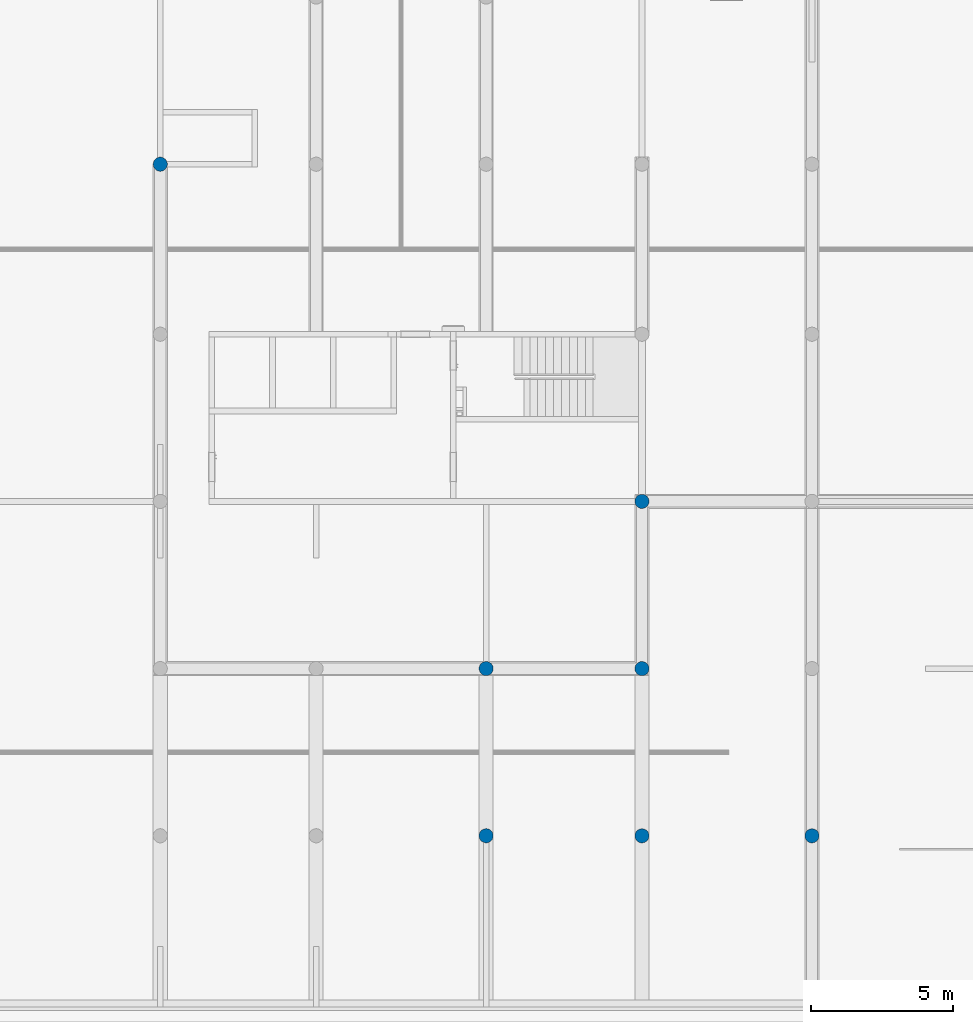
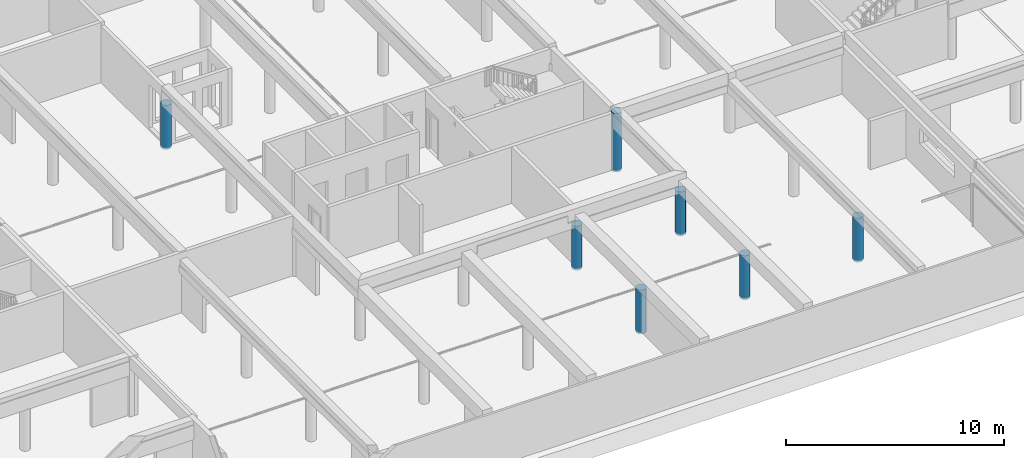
# One storey, part 3 of 25: 7 columns.
"""IFC2X3 building model written with IfcOpenShell, lengths in millimetres."""

from ifc_helpers import new_model, entity, si_unit, converted_unit, derived_unit, money_unit, direction, frame, origin_with_axes, place, context, subcontext, project, spatial, faceted_brep, material, type_object, element, save


model = new_model("IFC2X3")

# Units and contexts
model_context = context("Model", 3, precision=0.01, world=origin_with_axes(), true_north=direction((0.34421633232, 0.938890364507)))
body_context = subcontext(model_context, "Body", "Model", "MODEL_VIEW")
ifc_project = project(units=[si_unit("LENGTHUNIT", "METRE", prefix="MILLI"), si_unit("AREAUNIT", "SQUARE_METRE"), si_unit("VOLUMEUNIT", "CUBIC_METRE"), converted_unit("PLANEANGLEUNIT", "DEGREE", entity("IfcPlaneAngleMeasure", 0.0174532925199), si_unit("PLANEANGLEUNIT", "RADIAN"), dimensions=[0, 0, 0, 0, 0, 0, 0]), si_unit("SOLIDANGLEUNIT", "STERADIAN"), money_unit("USD"), converted_unit("TIMEUNIT", "Year", entity("IfcTimeMeasure", 31556926.0), si_unit("TIMEUNIT", "SECOND"), dimensions=[0, 0, 1, 0, 0, 0, 0]), si_unit("MASSUNIT", "GRAM", prefix="KILO"), si_unit("THERMODYNAMICTEMPERATUREUNIT", "DEGREE_CELSIUS"), si_unit("LUMINOUSINTENSITYUNIT", "LUMEN"), si_unit("ENERGYUNIT", "JOULE", prefix="MEGA"), derived_unit("THERMALCONDUCTANCEUNIT", [(si_unit("POWERUNIT", "WATT"), 1), (si_unit("LENGTHUNIT", "METRE"), -1), (si_unit("THERMODYNAMICTEMPERATUREUNIT", "KELVIN"), -1)]), derived_unit("SPECIFICHEATCAPACITYUNIT", [(si_unit("ENERGYUNIT", "JOULE"), 1), (si_unit("MASSUNIT", "GRAM", prefix="KILO"), -1), (si_unit("THERMODYNAMICTEMPERATUREUNIT", "KELVIN"), -1)]), derived_unit("MASSDENSITYUNIT", [(si_unit("MASSUNIT", "GRAM", prefix="KILO"), 1), (si_unit("VOLUMEUNIT", "CUBIC_METRE"), -1)])], contexts=[model_context])

# Site, building, storey
site_placement = place(None, origin_with_axes())
site = spatial("IfcSite", under=ifc_project, at=site_placement, Name="USTRONIE MORSKIE", CompositionType="ELEMENT")
building_placement = place(site_placement, origin_with_axes())
building = spatial("IfcBuilding", under=site, at=building_placement, Name="Budynek", CompositionType="ELEMENT")
storey_placement = place(building_placement, frame((0.0, 0.0, -3600.0), z_axis=(0.0, 0.0, 1.0), x_axis=(1.0, 0.0, 0.0)))
storey = spatial("IfcBuildingStorey", under=building, at=storey_placement, Name="GARAZ", CompositionType="ELEMENT", Elevation=-3600.0)

# Columns
ifc_material = material(Name="Beton konstrukcyjny 01")
column_type = type_object("IfcColumnType", Name="Beton konstrukcyjny 01 D500", PredefinedType="NOTDEFINED")
column_1_placement = place(storey_placement, frame((390817.920919, 721001.199036, -100.0), z_axis=(0.0, 0.0, 1.0), x_axis=(1.0, 0.0, 0.0)))
element("IfcColumn", 1, at=column_1_placement, inside=storey, type_object=column_type, material=ifc_material, Name="S1", context=body_context, shape_type="Brep", body=[
    faceted_brep([(-250.015, 0.0, 2470.00030619), (-250.015, 0.0, 0.0), (-246.216710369, -43.4146491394, 0.0), (-246.216710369, -43.4146491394, 2470.00030619), (-246.216710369, 43.4146491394, 2470.00030619), (-246.216710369, 43.4146491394, 0.0), (-234.937250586, 85.5101661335, 0.0), (-216.519341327, 125.0075, 0.0), (-191.522601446, 160.706544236, 0.0), (-160.706544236, 191.522601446, 0.0), (-125.0075, 216.519341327, 0.0), (-85.5101661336, 234.937250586, 0.0), (-43.4146491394, 246.216710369, 0.0), (0.0, 250.015, 0.0), (43.4146491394, 246.216710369, 0.0), (85.5101661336, 234.937250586, 0.0), (125.0075, 216.519341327, 0.0), (160.706544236, 191.522601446, 0.0), (191.522601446, 160.706544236, 0.0), (216.519341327, 125.0075, 0.0), (234.937250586, 85.5101661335, 0.0), (246.216710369, 43.4146491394, 0.0), (250.015, 0.0, 0.0), (246.216710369, -43.4146491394, 0.0), (234.937250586, -85.5101661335, 0.0), (216.519341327, -125.0075, 0.0), (191.522601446, -160.706544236, 0.0), (160.706544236, -191.522601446, 0.0), (125.0075, -216.519341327, 0.0), (85.5101661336, -234.937250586, 0.0), (43.4146491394, -246.216710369, 0.0), (0.0, -250.015, 0.0), (-43.4146491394, -246.216710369, 0.0), (-85.5101661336, -234.937250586, 0.0), (-125.0075, -216.519341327, 0.0), (-160.706544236, -191.522601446, 0.0), (-191.522601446, -160.706544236, 0.0), (-216.519341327, -125.0075, 0.0), (-234.937250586, -85.5101661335, 0.0), (-234.937250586, -85.5101661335, 2470.00030619), (-216.519341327, -125.0075, 2470.00030619), (-191.522601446, -160.706544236, 2470.00030619), (-160.706544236, -191.522601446, 2470.00030619), (-125.0075, -216.519341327, 2470.00030619), (-85.5101661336, -234.937250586, 2470.00030619), (-43.4146491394, -246.216710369, 2470.00030619), (0.0, -250.015, 2470.00030619), (43.4146491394, -246.216710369, 2470.00030619), (85.5101661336, -234.937250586, 2470.00030619), (125.0075, -216.519341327, 2470.00030619), (160.706544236, -191.522601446, 2470.00030619), (191.522601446, -160.706544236, 2470.00030619), (216.519341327, -125.0075, 2470.00030619), (234.937250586, -85.5101661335, 2470.00030619), (246.216710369, -43.4146491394, 2470.00030619), (250.015, 0.0, 2470.00030619), (246.216710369, 43.4146491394, 2470.00030619), (234.937250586, 85.5101661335, 2470.00030619), (216.519341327, 125.0075, 2470.00030619), (191.522601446, 160.706544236, 2470.00030619), (160.706544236, 191.522601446, 2470.00030619), (125.0075, 216.519341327, 2470.00030619), (85.5101661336, 234.937250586, 2470.00030619), (43.4146491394, 246.216710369, 2470.00030619), (0.0, 250.015, 2470.00030619), (-43.4146491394, 246.216710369, 2470.00030619), (-85.5101661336, 234.937250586, 2470.00030619), (-125.0075, 216.519341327, 2470.00030619), (-160.706544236, 191.522601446, 2470.00030619), (-191.522601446, 160.706544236, 2470.00030619), (-216.519341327, 125.0075, 2470.00030619), (-234.937250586, 85.5101661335, 2470.00030619)], [[[0, 1, 2, 3]], [[4, 5, 1, 0]], [[2, 1, 5, 6, 7, 8, 9, 10, 11, 12, 13, 14, 15, 16, 17, 18, 19, 20, 21, 22, 23, 24, 25, 26, 27, 28, 29, 30, 31, 32, 33, 34, 35, 36, 37, 38]], [[3, 2, 38, 39]], [[4, 0, 3, 39, 40, 41, 42, 43, 44, 45, 46, 47, 48, 49, 50, 51, 52, 53, 54, 55, 56, 57, 58, 59, 60, 61, 62, 63, 64, 65, 66, 67, 68, 69, 70, 71]], [[71, 6, 5, 4]], [[70, 7, 6, 71]], [[69, 8, 7, 70]], [[68, 9, 8, 69]], [[67, 10, 9, 68]], [[66, 11, 10, 67]], [[65, 12, 11, 66]], [[64, 13, 12, 65]], [[63, 14, 13, 64]], [[62, 15, 14, 63]], [[61, 16, 15, 62]], [[60, 17, 16, 61]], [[59, 18, 17, 60]], [[58, 19, 18, 59]], [[57, 20, 19, 58]], [[56, 21, 20, 57]], [[55, 22, 21, 56]], [[54, 23, 22, 55]], [[53, 24, 23, 54]], [[52, 25, 24, 53]], [[51, 26, 25, 52]], [[50, 27, 26, 51]], [[49, 28, 27, 50]], [[48, 29, 28, 49]], [[47, 30, 29, 48]], [[46, 31, 30, 47]], [[45, 32, 31, 46]], [[44, 33, 32, 45]], [[43, 34, 33, 44]], [[42, 35, 34, 43]], [[41, 36, 35, 42]], [[40, 37, 36, 41]], [[39, 38, 37, 40]]]),
])
column_2_placement = place(storey_placement, frame((396317.920919, 715101.199036, -100.0), z_axis=(0.0, 0.0, 1.0), x_axis=(0.0, 1.0, 0.0)))
element("IfcColumn", 2, at=column_2_placement, inside=storey, type_object=column_type, material=ifc_material, Name="S1", context=body_context, shape_type="Brep", body=[
    faceted_brep([(-250.0, 0.0, 2470.00030619), (-250.0, 0.0, 0.0), (-246.201938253, -43.4120444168, 0.0), (-246.201938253, -43.4120444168, 2470.00030619), (-246.201938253, 43.4120444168, 2470.00030619), (-246.201938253, 43.4120444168, 0.0), (-234.923155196, 85.5050358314, 0.0), (-216.506350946, 125.0, 0.0), (-191.51111078, 160.696902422, 0.0), (-160.696902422, 191.51111078, 0.0), (-125.0, 216.506350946, 0.0), (-85.5050358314, 234.923155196, 0.0), (-43.4120444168, 246.201938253, 0.0), (0.0, 250.0, 0.0), (43.4120444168, 246.201938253, 0.0), (85.5050358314, 234.923155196, 0.0), (125.0, 216.506350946, 0.0), (160.696902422, 191.51111078, 0.0), (191.51111078, 160.696902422, 0.0), (216.506350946, 125.0, 0.0), (234.923155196, 85.5050358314, 0.0), (246.201938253, 43.4120444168, 0.0), (250.0, 0.0, 0.0), (246.201938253, -43.4120444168, 0.0), (234.923155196, -85.5050358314, 0.0), (216.506350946, -125.0, 0.0), (191.51111078, -160.696902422, 0.0), (160.696902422, -191.51111078, 0.0), (125.0, -216.506350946, 0.0), (85.5050358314, -234.923155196, 0.0), (43.4120444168, -246.201938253, 0.0), (0.0, -250.0, 0.0), (-43.4120444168, -246.201938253, 0.0), (-85.5050358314, -234.923155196, 0.0), (-125.0, -216.506350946, 0.0), (-160.696902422, -191.51111078, 0.0), (-191.51111078, -160.696902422, 0.0), (-216.506350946, -125.0, 0.0), (-234.923155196, -85.5050358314, 0.0), (-234.923155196, -85.5050358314, 2470.00030619), (-216.506350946, -125.0, 2470.00030619), (-191.51111078, -160.696902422, 2470.00030619), (-160.696902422, -191.51111078, 2470.00030619), (-125.0, -216.506350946, 2470.00030619), (-85.5050358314, -234.923155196, 2470.00030619), (-43.4120444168, -246.201938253, 2470.00030619), (0.0, -250.0, 2470.00030619), (43.4120444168, -246.201938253, 2470.00030619), (85.5050358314, -234.923155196, 2470.00030619), (125.0, -216.506350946, 2470.00030619), (160.696902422, -191.51111078, 2470.00030619), (191.51111078, -160.696902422, 2470.00030619), (216.506350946, -125.0, 2470.00030619), (234.923155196, -85.5050358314, 2470.00030619), (246.201938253, -43.4120444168, 2470.00030619), (250.0, 0.0, 2470.00030619), (246.201938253, 43.4120444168, 2470.00030619), (234.923155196, 85.5050358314, 2470.00030619), (216.506350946, 125.0, 2470.00030619), (191.51111078, 160.696902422, 2470.00030619), (160.696902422, 191.51111078, 2470.00030619), (125.0, 216.506350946, 2470.00030619), (85.5050358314, 234.923155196, 2470.00030619), (43.4120444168, 246.201938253, 2470.00030619), (0.0, 250.0, 2470.00030619), (-43.4120444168, 246.201938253, 2470.00030619), (-85.5050358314, 234.923155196, 2470.00030619), (-125.0, 216.506350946, 2470.00030619), (-160.696902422, 191.51111078, 2470.00030619), (-191.51111078, 160.696902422, 2470.00030619), (-216.506350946, 125.0, 2470.00030619), (-234.923155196, 85.5050358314, 2470.00030619)], [[[0, 1, 2, 3]], [[4, 5, 1, 0]], [[2, 1, 5, 6, 7, 8, 9, 10, 11, 12, 13, 14, 15, 16, 17, 18, 19, 20, 21, 22, 23, 24, 25, 26, 27, 28, 29, 30, 31, 32, 33, 34, 35, 36, 37, 38]], [[3, 2, 38, 39]], [[4, 0, 3, 39, 40, 41, 42, 43, 44, 45, 46, 47, 48, 49, 50, 51, 52, 53, 54, 55, 56, 57, 58, 59, 60, 61, 62, 63, 64, 65, 66, 67, 68, 69, 70, 71]], [[71, 6, 5, 4]], [[70, 7, 6, 71]], [[69, 8, 7, 70]], [[68, 9, 8, 69]], [[67, 10, 9, 68]], [[66, 11, 10, 67]], [[65, 12, 11, 66]], [[64, 13, 12, 65]], [[63, 14, 13, 64]], [[62, 15, 14, 63]], [[61, 16, 15, 62]], [[60, 17, 16, 61]], [[59, 18, 17, 60]], [[58, 19, 18, 59]], [[57, 20, 19, 58]], [[56, 21, 20, 57]], [[55, 22, 21, 56]], [[54, 23, 22, 55]], [[53, 24, 23, 54]], [[52, 25, 24, 53]], [[51, 26, 25, 52]], [[50, 27, 26, 51]], [[49, 28, 27, 50]], [[48, 29, 28, 49]], [[47, 30, 29, 48]], [[46, 31, 30, 47]], [[45, 32, 31, 46]], [[44, 33, 32, 45]], [[43, 34, 33, 44]], [[42, 35, 34, 43]], [[41, 36, 35, 42]], [[40, 37, 36, 41]], [[39, 38, 37, 40]]]),
])
column_3_placement = place(storey_placement, frame((396317.920919, 721001.199036, -100.0), z_axis=(0.0, 0.0, 1.0), x_axis=(1.0, 0.0, 0.0)))
element("IfcColumn", 3, at=column_3_placement, inside=storey, type_object=column_type, material=ifc_material, Name="S1", context=body_context, shape_type="Brep", body=[
    faceted_brep([(-250.015, 0.0, 2470.00030619), (-250.015, 0.0, 0.0), (-246.216710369, -43.4146491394, 0.0), (-246.216710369, -43.4146491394, 2470.00030619), (-246.216710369, 43.4146491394, 2470.00030619), (-246.216710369, 43.4146491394, 0.0), (-234.937250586, 85.5101661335, 0.0), (-216.519341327, 125.0075, 0.0), (-191.522601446, 160.706544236, 0.0), (-160.706544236, 191.522601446, 0.0), (-125.0075, 216.519341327, 0.0), (-85.5101661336, 234.937250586, 0.0), (-43.4146491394, 246.216710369, 0.0), (0.0, 250.015, 0.0), (43.4146491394, 246.216710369, 0.0), (85.5101661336, 234.937250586, 0.0), (125.0075, 216.519341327, 0.0), (160.706544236, 191.522601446, 0.0), (191.522601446, 160.706544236, 0.0), (216.519341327, 125.0075, 0.0), (234.937250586, 85.5101661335, 0.0), (246.216710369, 43.4146491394, 0.0), (250.015, 0.0, 0.0), (246.216710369, -43.4146491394, 0.0), (234.937250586, -85.5101661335, 0.0), (216.519341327, -125.0075, 0.0), (191.522601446, -160.706544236, 0.0), (160.706544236, -191.522601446, 0.0), (125.0075, -216.519341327, 0.0), (85.5101661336, -234.937250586, 0.0), (43.4146491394, -246.216710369, 0.0), (0.0, -250.015, 0.0), (-43.4146491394, -246.216710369, 0.0), (-85.5101661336, -234.937250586, 0.0), (-125.0075, -216.519341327, 0.0), (-160.706544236, -191.522601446, 0.0), (-191.522601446, -160.706544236, 0.0), (-216.519341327, -125.0075, 0.0), (-234.937250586, -85.5101661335, 0.0), (-234.937250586, -85.5101661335, 2470.00030619), (-216.519341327, -125.0075, 2470.00030619), (-191.522601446, -160.706544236, 2470.00030619), (-160.706544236, -191.522601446, 2470.00030619), (-125.0075, -216.519341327, 2470.00030619), (-85.5101661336, -234.937250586, 2470.00030619), (-43.4146491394, -246.216710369, 2470.00030619), (0.0, -250.015, 2470.00030619), (43.4146491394, -246.216710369, 2470.00030619), (85.5101661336, -234.937250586, 2470.00030619), (125.0075, -216.519341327, 2470.00030619), (160.706544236, -191.522601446, 2470.00030619), (191.522601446, -160.706544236, 2470.00030619), (216.519341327, -125.0075, 2470.00030619), (234.937250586, -85.5101661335, 2470.00030619), (246.216710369, -43.4146491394, 2470.00030619), (250.015, 0.0, 2470.00030619), (246.216710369, 43.4146491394, 2470.00030619), (234.937250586, 85.5101661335, 2470.00030619), (216.519341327, 125.0075, 2470.00030619), (191.522601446, 160.706544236, 2470.00030619), (160.706544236, 191.522601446, 2470.00030619), (125.0075, 216.519341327, 2470.00030619), (85.5101661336, 234.937250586, 2470.00030619), (43.4146491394, 246.216710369, 2470.00030619), (0.0, 250.015, 2470.00030619), (-43.4146491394, 246.216710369, 2470.00030619), (-85.5101661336, 234.937250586, 2470.00030619), (-125.0075, 216.519341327, 2470.00030619), (-160.706544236, 191.522601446, 2470.00030619), (-191.522601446, 160.706544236, 2470.00030619), (-216.519341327, 125.0075, 2470.00030619), (-234.937250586, 85.5101661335, 2470.00030619)], [[[0, 1, 2, 3]], [[4, 5, 1, 0]], [[2, 1, 5, 6, 7, 8, 9, 10, 11, 12, 13, 14, 15, 16, 17, 18, 19, 20, 21, 22, 23, 24, 25, 26, 27, 28, 29, 30, 31, 32, 33, 34, 35, 36, 37, 38]], [[3, 2, 38, 39]], [[4, 0, 3, 39, 40, 41, 42, 43, 44, 45, 46, 47, 48, 49, 50, 51, 52, 53, 54, 55, 56, 57, 58, 59, 60, 61, 62, 63, 64, 65, 66, 67, 68, 69, 70, 71]], [[71, 6, 5, 4]], [[70, 7, 6, 71]], [[69, 8, 7, 70]], [[68, 9, 8, 69]], [[67, 10, 9, 68]], [[66, 11, 10, 67]], [[65, 12, 11, 66]], [[64, 13, 12, 65]], [[63, 14, 13, 64]], [[62, 15, 14, 63]], [[61, 16, 15, 62]], [[60, 17, 16, 61]], [[59, 18, 17, 60]], [[58, 19, 18, 59]], [[57, 20, 19, 58]], [[56, 21, 20, 57]], [[55, 22, 21, 56]], [[54, 23, 22, 55]], [[53, 24, 23, 54]], [[52, 25, 24, 53]], [[51, 26, 25, 52]], [[50, 27, 26, 51]], [[49, 28, 27, 50]], [[48, 29, 28, 49]], [[47, 30, 29, 48]], [[46, 31, 30, 47]], [[45, 32, 31, 46]], [[44, 33, 32, 45]], [[43, 34, 33, 44]], [[42, 35, 34, 43]], [[41, 36, 35, 42]], [[40, 37, 36, 41]], [[39, 38, 37, 40]]]),
])
column_4_placement = place(storey_placement, frame((402317.920919, 715101.199036, -100.0), z_axis=(0.0, 0.0, 1.0), x_axis=(1.0, 0.0, 0.0)))
element("IfcColumn", 4, at=column_4_placement, inside=storey, type_object=column_type, material=ifc_material, Name="S1", context=body_context, shape_type="Brep", body=[
    faceted_brep([(-250.0, 0.0, 2470.00030619), (-250.0, 0.0, 0.0), (-246.201938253, -43.4120444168, 0.0), (-246.201938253, -43.4120444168, 2470.00030619), (-246.201938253, 43.4120444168, 2470.00030619), (-246.201938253, 43.4120444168, 0.0), (-234.923155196, 85.5050358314, 0.0), (-216.506350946, 125.0, 0.0), (-191.51111078, 160.696902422, 0.0), (-160.696902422, 191.51111078, 0.0), (-125.0, 216.506350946, 0.0), (-85.5050358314, 234.923155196, 0.0), (-43.4120444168, 246.201938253, 0.0), (0.0, 250.0, 0.0), (43.4120444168, 246.201938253, 0.0), (85.5050358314, 234.923155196, 0.0), (125.0, 216.506350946, 0.0), (160.696902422, 191.51111078, 0.0), (191.51111078, 160.696902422, 0.0), (216.506350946, 125.0, 0.0), (234.923155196, 85.5050358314, 0.0), (246.201938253, 43.4120444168, 0.0), (250.0, 0.0, 0.0), (246.201938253, -43.4120444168, 0.0), (234.923155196, -85.5050358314, 0.0), (216.506350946, -125.0, 0.0), (191.51111078, -160.696902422, 0.0), (160.696902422, -191.51111078, 0.0), (125.0, -216.506350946, 0.0), (85.5050358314, -234.923155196, 0.0), (43.4120444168, -246.201938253, 0.0), (0.0, -250.0, 0.0), (-43.4120444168, -246.201938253, 0.0), (-85.5050358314, -234.923155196, 0.0), (-125.0, -216.506350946, 0.0), (-160.696902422, -191.51111078, 0.0), (-191.51111078, -160.696902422, 0.0), (-216.506350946, -125.0, 0.0), (-234.923155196, -85.5050358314, 0.0), (-234.923155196, -85.5050358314, 2470.00030619), (-216.506350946, -125.0, 2470.00030619), (-191.51111078, -160.696902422, 2470.00030619), (-160.696902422, -191.51111078, 2470.00030619), (-125.0, -216.506350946, 2470.00030619), (-85.5050358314, -234.923155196, 2470.00030619), (-43.4120444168, -246.201938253, 2470.00030619), (0.0, -250.0, 2470.00030619), (43.4120444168, -246.201938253, 2470.00030619), (85.5050358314, -234.923155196, 2470.00030619), (125.0, -216.506350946, 2470.00030619), (160.696902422, -191.51111078, 2470.00030619), (191.51111078, -160.696902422, 2470.00030619), (216.506350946, -125.0, 2470.00030619), (234.923155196, -85.5050358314, 2470.00030619), (246.201938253, -43.4120444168, 2470.00030619), (250.0, 0.0, 2470.00030619), (246.201938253, 43.4120444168, 2470.00030619), (234.923155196, 85.5050358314, 2470.00030619), (216.506350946, 125.0, 2470.00030619), (191.51111078, 160.696902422, 2470.00030619), (160.696902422, 191.51111078, 2470.00030619), (125.0, 216.506350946, 2470.00030619), (85.5050358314, 234.923155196, 2470.00030619), (43.4120444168, 246.201938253, 2470.00030619), (0.0, 250.0, 2470.00030619), (-43.4120444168, 246.201938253, 2470.00030619), (-85.5050358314, 234.923155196, 2470.00030619), (-125.0, 216.506350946, 2470.00030619), (-160.696902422, 191.51111078, 2470.00030619), (-191.51111078, 160.696902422, 2470.00030619), (-216.506350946, 125.0, 2470.00030619), (-234.923155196, 85.5050358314, 2470.00030619)], [[[0, 1, 2, 3]], [[4, 5, 1, 0]], [[2, 1, 5, 6, 7, 8, 9, 10, 11, 12, 13, 14, 15, 16, 17, 18, 19, 20, 21, 22, 23, 24, 25, 26, 27, 28, 29, 30, 31, 32, 33, 34, 35, 36, 37, 38]], [[3, 2, 38, 39]], [[4, 0, 3, 39, 40, 41, 42, 43, 44, 45, 46, 47, 48, 49, 50, 51, 52, 53, 54, 55, 56, 57, 58, 59, 60, 61, 62, 63, 64, 65, 66, 67, 68, 69, 70, 71]], [[71, 6, 5, 4]], [[70, 7, 6, 71]], [[69, 8, 7, 70]], [[68, 9, 8, 69]], [[67, 10, 9, 68]], [[66, 11, 10, 67]], [[65, 12, 11, 66]], [[64, 13, 12, 65]], [[63, 14, 13, 64]], [[62, 15, 14, 63]], [[61, 16, 15, 62]], [[60, 17, 16, 61]], [[59, 18, 17, 60]], [[58, 19, 18, 59]], [[57, 20, 19, 58]], [[56, 21, 20, 57]], [[55, 22, 21, 56]], [[54, 23, 22, 55]], [[53, 24, 23, 54]], [[52, 25, 24, 53]], [[51, 26, 25, 52]], [[50, 27, 26, 51]], [[49, 28, 27, 50]], [[48, 29, 28, 49]], [[47, 30, 29, 48]], [[46, 31, 30, 47]], [[45, 32, 31, 46]], [[44, 33, 32, 45]], [[43, 34, 33, 44]], [[42, 35, 34, 43]], [[41, 36, 35, 42]], [[40, 37, 36, 41]], [[39, 38, 37, 40]]]),
])
column_5_placement = place(storey_placement, frame((396317.920919, 726901.199036, -100.0), z_axis=(0.0, 0.0, 1.0), x_axis=(1.0, 0.0, 0.0)))
element("IfcColumn", 5, at=column_5_placement, inside=storey, type_object=column_type, material=ifc_material, Name="S3", context=body_context, shape_type="Brep", body=[
    faceted_brep([(-250.0, 0.0, 3280.0), (-250.0, 0.0, 0.0), (-246.201938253, -43.4120444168, 0.0), (-246.201938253, -43.4120444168, 3280.0), (-246.201938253, 43.4120444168, 3280.0), (-246.201938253, 43.4120444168, 0.0), (-234.923155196, 85.5050358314, 0.0), (-216.506350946, 125.0, 0.0), (-191.51111078, 160.696902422, 0.0), (-160.696902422, 191.51111078, 0.0), (-125.0, 216.506350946, 0.0), (-85.5050358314, 234.923155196, 0.0), (-43.4120444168, 246.201938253, 0.0), (0.0, 250.0, 0.0), (43.4120444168, 246.201938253, 0.0), (85.5050358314, 234.923155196, 0.0), (125.0, 216.506350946, 0.0), (160.696902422, 191.51111078, 0.0), (191.51111078, 160.696902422, 0.0), (216.506350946, 125.0, 0.0), (234.923155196, 85.5050358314, 0.0), (246.201938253, 43.4120444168, 0.0), (250.0, 0.0, 0.0), (246.201938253, -43.4120444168, 0.0), (234.923155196, -85.5050358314, 0.0), (216.506350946, -125.0, 0.0), (191.51111078, -160.696902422, 0.0), (160.696902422, -191.51111078, 0.0), (125.0, -216.506350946, 0.0), (85.5050358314, -234.923155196, 0.0), (43.4120444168, -246.201938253, 0.0), (0.0, -250.0, 0.0), (-43.4120444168, -246.201938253, 0.0), (-85.5050358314, -234.923155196, 0.0), (-125.0, -216.506350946, 0.0), (-160.696902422, -191.51111078, 0.0), (-191.51111078, -160.696902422, 0.0), (-216.506350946, -125.0, 0.0), (-234.923155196, -85.5050358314, 0.0), (-234.923155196, -85.5050358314, 3280.0), (-216.506350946, -125.0, 3280.0), (-191.51111078, -160.696902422, 3280.0), (-160.696902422, -191.51111078, 3280.0), (-125.0, -216.506350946, 3280.0), (-85.5050358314, -234.923155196, 3280.0), (-43.4120444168, -246.201938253, 3280.0), (0.0, -250.0, 3280.0), (43.4120444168, -246.201938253, 3280.0), (85.5050358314, -234.923155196, 3280.0), (125.0, -216.506350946, 3280.0), (160.696902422, -191.51111078, 3280.0), (191.51111078, -160.696902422, 3280.0), (216.506350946, -125.0, 3280.0), (234.923155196, -85.5050358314, 3280.0), (246.201938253, -43.4120444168, 3280.0), (250.0, 0.0, 3280.0), (246.201938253, 43.4120444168, 3280.0), (234.923155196, 85.5050358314, 3280.0), (216.506350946, 125.0, 3280.0), (191.51111078, 160.696902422, 3280.0), (160.696902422, 191.51111078, 3280.0), (125.0, 216.506350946, 3280.0), (85.5050358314, 234.923155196, 3280.0), (43.4120444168, 246.201938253, 3280.0), (0.0, 250.0, 3280.0), (-43.4120444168, 246.201938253, 3280.0), (-85.5050358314, 234.923155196, 3280.0), (-125.0, 216.506350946, 3280.0), (-160.696902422, 191.51111078, 3280.0), (-191.51111078, 160.696902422, 3280.0), (-216.506350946, 125.0, 3280.0), (-234.923155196, 85.5050358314, 3280.0)], [[[0, 1, 2, 3]], [[4, 5, 1, 0]], [[2, 1, 5, 6, 7, 8, 9, 10, 11, 12, 13, 14, 15, 16, 17, 18, 19, 20, 21, 22, 23, 24, 25, 26, 27, 28, 29, 30, 31, 32, 33, 34, 35, 36, 37, 38]], [[3, 2, 38, 39]], [[4, 0, 3, 39, 40, 41, 42, 43, 44, 45, 46, 47, 48, 49, 50, 51, 52, 53, 54, 55, 56, 57, 58, 59, 60, 61, 62, 63, 64, 65, 66, 67, 68, 69, 70, 71]], [[71, 6, 5, 4]], [[70, 7, 6, 71]], [[69, 8, 7, 70]], [[68, 9, 8, 69]], [[67, 10, 9, 68]], [[66, 11, 10, 67]], [[65, 12, 11, 66]], [[64, 13, 12, 65]], [[63, 14, 13, 64]], [[62, 15, 14, 63]], [[61, 16, 15, 62]], [[60, 17, 16, 61]], [[59, 18, 17, 60]], [[58, 19, 18, 59]], [[57, 20, 19, 58]], [[56, 21, 20, 57]], [[55, 22, 21, 56]], [[54, 23, 22, 55]], [[53, 24, 23, 54]], [[52, 25, 24, 53]], [[51, 26, 25, 52]], [[50, 27, 26, 51]], [[49, 28, 27, 50]], [[48, 29, 28, 49]], [[47, 30, 29, 48]], [[46, 31, 30, 47]], [[45, 32, 31, 46]], [[44, 33, 32, 45]], [[43, 34, 33, 44]], [[42, 35, 34, 43]], [[41, 36, 35, 42]], [[40, 37, 36, 41]], [[39, 38, 37, 40]]]),
])
column_6_placement = place(storey_placement, frame((390817.920919, 715101.199036, -100.0), z_axis=(0.0, 0.0, 1.0), x_axis=(0.0, 1.0, 0.0)))
element("IfcColumn", 6, at=column_6_placement, inside=storey, type_object=column_type, material=ifc_material, Name="S1", context=body_context, shape_type="Brep", body=[
    faceted_brep([(-250.0, 0.0, 2470.00030619), (-250.0, 0.0, 0.0), (-246.201938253, -43.4120444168, 0.0), (-246.201938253, -43.4120444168, 2470.00030619), (-246.201938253, 43.4120444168, 2470.00030619), (-246.201938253, 43.4120444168, 0.0), (-234.923155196, 85.5050358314, 0.0), (-216.506350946, 125.0, 0.0), (-191.51111078, 160.696902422, 0.0), (-160.696902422, 191.51111078, 0.0), (-125.0, 216.506350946, 0.0), (-85.5050358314, 234.923155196, 0.0), (-43.4120444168, 246.201938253, 0.0), (0.0, 250.0, 0.0), (43.4120444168, 246.201938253, 0.0), (85.5050358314, 234.923155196, 0.0), (125.0, 216.506350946, 0.0), (160.696902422, 191.51111078, 0.0), (191.51111078, 160.696902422, 0.0), (216.506350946, 125.0, 0.0), (234.923155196, 85.5050358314, 0.0), (246.201938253, 43.4120444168, 0.0), (250.0, 0.0, 0.0), (246.201938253, -43.4120444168, 0.0), (234.923155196, -85.5050358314, 0.0), (216.506350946, -125.0, 0.0), (191.51111078, -160.696902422, 0.0), (160.696902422, -191.51111078, 0.0), (125.0, -216.506350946, 0.0), (85.5050358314, -234.923155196, 0.0), (43.4120444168, -246.201938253, 0.0), (0.0, -250.0, 0.0), (-43.4120444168, -246.201938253, 0.0), (-85.5050358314, -234.923155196, 0.0), (-125.0, -216.506350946, 0.0), (-160.696902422, -191.51111078, 0.0), (-191.51111078, -160.696902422, 0.0), (-216.506350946, -125.0, 0.0), (-234.923155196, -85.5050358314, 0.0), (-234.923155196, -85.5050358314, 2470.00030619), (-216.506350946, -125.0, 2470.00030619), (-191.51111078, -160.696902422, 2470.00030619), (-160.696902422, -191.51111078, 2470.00030619), (-125.0, -216.506350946, 2470.00030619), (-85.5050358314, -234.923155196, 2470.00030619), (-43.4120444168, -246.201938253, 2470.00030619), (0.0, -250.0, 2470.00030619), (43.4120444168, -246.201938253, 2470.00030619), (85.5050358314, -234.923155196, 2470.00030619), (125.0, -216.506350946, 2470.00030619), (160.696902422, -191.51111078, 2470.00030619), (191.51111078, -160.696902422, 2470.00030619), (216.506350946, -125.0, 2470.00030619), (234.923155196, -85.5050358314, 2470.00030619), (246.201938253, -43.4120444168, 2470.00030619), (250.0, 0.0, 2470.00030619), (246.201938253, 43.4120444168, 2470.00030619), (234.923155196, 85.5050358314, 2470.00030619), (216.506350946, 125.0, 2470.00030619), (191.51111078, 160.696902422, 2470.00030619), (160.696902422, 191.51111078, 2470.00030619), (125.0, 216.506350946, 2470.00030619), (85.5050358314, 234.923155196, 2470.00030619), (43.4120444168, 246.201938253, 2470.00030619), (0.0, 250.0, 2470.00030619), (-43.4120444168, 246.201938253, 2470.00030619), (-85.5050358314, 234.923155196, 2470.00030619), (-125.0, 216.506350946, 2470.00030619), (-160.696902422, 191.51111078, 2470.00030619), (-191.51111078, 160.696902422, 2470.00030619), (-216.506350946, 125.0, 2470.00030619), (-234.923155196, 85.5050358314, 2470.00030619)], [[[0, 1, 2, 3]], [[4, 5, 1, 0]], [[2, 1, 5, 6, 7, 8, 9, 10, 11, 12, 13, 14, 15, 16, 17, 18, 19, 20, 21, 22, 23, 24, 25, 26, 27, 28, 29, 30, 31, 32, 33, 34, 35, 36, 37, 38]], [[3, 2, 38, 39]], [[4, 0, 3, 39, 40, 41, 42, 43, 44, 45, 46, 47, 48, 49, 50, 51, 52, 53, 54, 55, 56, 57, 58, 59, 60, 61, 62, 63, 64, 65, 66, 67, 68, 69, 70, 71]], [[71, 6, 5, 4]], [[70, 7, 6, 71]], [[69, 8, 7, 70]], [[68, 9, 8, 69]], [[67, 10, 9, 68]], [[66, 11, 10, 67]], [[65, 12, 11, 66]], [[64, 13, 12, 65]], [[63, 14, 13, 64]], [[62, 15, 14, 63]], [[61, 16, 15, 62]], [[60, 17, 16, 61]], [[59, 18, 17, 60]], [[58, 19, 18, 59]], [[57, 20, 19, 58]], [[56, 21, 20, 57]], [[55, 22, 21, 56]], [[54, 23, 22, 55]], [[53, 24, 23, 54]], [[52, 25, 24, 53]], [[51, 26, 25, 52]], [[50, 27, 26, 51]], [[49, 28, 27, 50]], [[48, 29, 28, 49]], [[47, 30, 29, 48]], [[46, 31, 30, 47]], [[45, 32, 31, 46]], [[44, 33, 32, 45]], [[43, 34, 33, 44]], [[42, 35, 34, 43]], [[41, 36, 35, 42]], [[40, 37, 36, 41]], [[39, 38, 37, 40]]]),
])
column_7_placement = place(storey_placement, frame((379317.920919, 738801.199036, -100.0), z_axis=(0.0, 0.0, 1.0), x_axis=(1.0, 0.0, 0.0)))
element("IfcColumn", 7, at=column_7_placement, inside=storey, type_object=column_type, material=ifc_material, Name="S1", context=body_context, shape_type="Brep", body=[
    faceted_brep([(-250.0, 0.0, 2470.00030619), (-250.0, 0.0, 0.0), (-246.201938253, -43.4120444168, 0.0), (-246.201938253, -43.4120444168, 2470.00030619), (-246.201938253, 43.4120444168, 2470.00030619), (-246.201938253, 43.4120444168, 0.0), (-234.923155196, 85.5050358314, 0.0), (-216.506350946, 125.0, 0.0), (-191.51111078, 160.696902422, 0.0), (-160.696902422, 191.51111078, 0.0), (-125.0, 216.506350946, 0.0), (-85.5050358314, 234.923155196, 0.0), (-43.4120444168, 246.201938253, 0.0), (0.0, 250.0, 0.0), (43.4120444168, 246.201938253, 0.0), (85.5050358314, 234.923155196, 0.0), (125.0, 216.506350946, 0.0), (160.696902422, 191.51111078, 0.0), (191.51111078, 160.696902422, 0.0), (216.506350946, 125.0, 0.0), (234.923155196, 85.5050358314, 0.0), (246.201938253, 43.4120444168, 0.0), (250.0, 0.0, 0.0), (246.201938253, -43.4120444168, 0.0), (234.923155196, -85.5050358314, 0.0), (216.506350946, -125.0, 0.0), (191.51111078, -160.696902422, 0.0), (160.696902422, -191.51111078, 0.0), (125.0, -216.506350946, 0.0), (85.5050358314, -234.923155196, 0.0), (43.4120444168, -246.201938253, 0.0), (0.0, -250.0, 0.0), (-43.4120444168, -246.201938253, 0.0), (-85.5050358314, -234.923155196, 0.0), (-125.0, -216.506350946, 0.0), (-160.696902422, -191.51111078, 0.0), (-191.51111078, -160.696902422, 0.0), (-216.506350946, -125.0, 0.0), (-234.923155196, -85.5050358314, 0.0), (-234.923155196, -85.5050358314, 2470.00030619), (-216.506350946, -125.0, 2470.00030619), (-191.51111078, -160.696902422, 2470.00030619), (-160.696902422, -191.51111078, 2470.00030619), (-125.0, -216.506350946, 2470.00030619), (-85.5050358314, -234.923155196, 2470.00030619), (-43.4120444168, -246.201938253, 2470.00030619), (0.0, -250.0, 2470.00030619), (43.4120444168, -246.201938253, 2470.00030619), (85.5050358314, -234.923155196, 2470.00030619), (125.0, -216.506350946, 2470.00030619), (160.696902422, -191.51111078, 2470.00030619), (191.51111078, -160.696902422, 2470.00030619), (216.506350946, -125.0, 2470.00030619), (234.923155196, -85.5050358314, 2470.00030619), (246.201938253, -43.4120444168, 2470.00030619), (250.0, 0.0, 2470.00030619), (246.201938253, 43.4120444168, 2470.00030619), (234.923155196, 85.5050358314, 2470.00030619), (216.506350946, 125.0, 2470.00030619), (191.51111078, 160.696902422, 2470.00030619), (160.696902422, 191.51111078, 2470.00030619), (125.0, 216.506350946, 2470.00030619), (85.5050358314, 234.923155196, 2470.00030619), (43.4120444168, 246.201938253, 2470.00030619), (0.0, 250.0, 2470.00030619), (-43.4120444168, 246.201938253, 2470.00030619), (-85.5050358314, 234.923155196, 2470.00030619), (-125.0, 216.506350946, 2470.00030619), (-160.696902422, 191.51111078, 2470.00030619), (-191.51111078, 160.696902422, 2470.00030619), (-216.506350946, 125.0, 2470.00030619), (-234.923155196, 85.5050358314, 2470.00030619)], [[[0, 1, 2, 3]], [[4, 5, 1, 0]], [[2, 1, 5, 6, 7, 8, 9, 10, 11, 12, 13, 14, 15, 16, 17, 18, 19, 20, 21, 22, 23, 24, 25, 26, 27, 28, 29, 30, 31, 32, 33, 34, 35, 36, 37, 38]], [[3, 2, 38, 39]], [[4, 0, 3, 39, 40, 41, 42, 43, 44, 45, 46, 47, 48, 49, 50, 51, 52, 53, 54, 55, 56, 57, 58, 59, 60, 61, 62, 63, 64, 65, 66, 67, 68, 69, 70, 71]], [[71, 6, 5, 4]], [[70, 7, 6, 71]], [[69, 8, 7, 70]], [[68, 9, 8, 69]], [[67, 10, 9, 68]], [[66, 11, 10, 67]], [[65, 12, 11, 66]], [[64, 13, 12, 65]], [[63, 14, 13, 64]], [[62, 15, 14, 63]], [[61, 16, 15, 62]], [[60, 17, 16, 61]], [[59, 18, 17, 60]], [[58, 19, 18, 59]], [[57, 20, 19, 58]], [[56, 21, 20, 57]], [[55, 22, 21, 56]], [[54, 23, 22, 55]], [[53, 24, 23, 54]], [[52, 25, 24, 53]], [[51, 26, 25, 52]], [[50, 27, 26, 51]], [[49, 28, 27, 50]], [[48, 29, 28, 49]], [[47, 30, 29, 48]], [[46, 31, 30, 47]], [[45, 32, 31, 46]], [[44, 33, 32, 45]], [[43, 34, 33, 44]], [[42, 35, 34, 43]], [[41, 36, 35, 42]], [[40, 37, 36, 41]], [[39, 38, 37, 40]]]),
])

save(model, "model.ifc")
